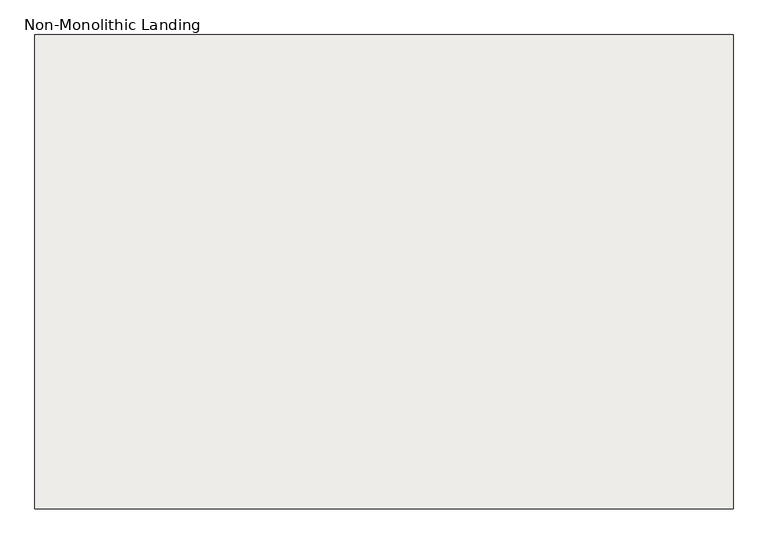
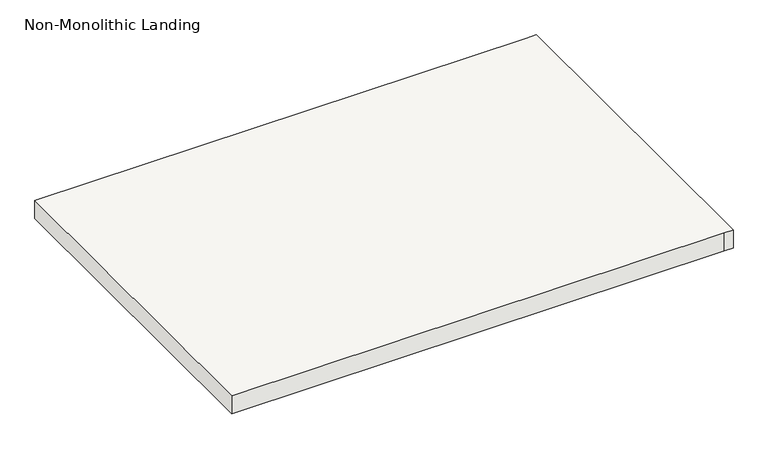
"""IFC4 building model written with IfcOpenShell, lengths in millimetres: slab geometry, Non-Monolithic Landing."""

from ifc_helpers import new_model, si_unit, frame, origin, place, context, project, spatial, polyline, outline, extrude, source, transform, mapped, element, save


def non_monolithic_landing_0ca8307c(model_context):
    return source(origin(), model_context, "Body", "SweptSolid", [
        extrude(outline(polyline([(-47125.9118252, 32584.0177722), (-45805.1118252, 32584.0177722), (-45779.7118252, 32584.0177722), (-45779.7118252, 31669.6177722), (-45805.1118252, 31669.6177722), (-47125.9118252, 31669.6177722), (-47125.9118252, 32584.0177722)])), frame((0.0, 0.0, 2126.3428571), z_axis=(0.0, 0.0, 1.0), x_axis=(1.0, 0.0, 0.0)), (0.0, 0.0, 1.0), 50.8),
    ])


if __name__ == "__main__":
    model = new_model("IFC4")
    model_context = context("Model", 3, world=origin())
    ifc_project = project(units=[si_unit("LENGTHUNIT", "METRE", prefix="MILLI")], contexts=[model_context])
    site = spatial("IfcSite", under=ifc_project)
    building = spatial("IfcBuilding", under=site)
    placement = place(None, origin())
    non_monolithic_landing_shape = non_monolithic_landing_0ca8307c(model_context)
    element("IfcSlab", 1, ObjectType="Non-Monolithic Landing", at=placement, inside=building, context=model_context, shape_type="MappedRepresentation", body=[
        mapped(non_monolithic_landing_shape, transform((0.0, 0.0, 0.0), x_axis=(1.0, 0.0, 0.0), y_axis=(0.0, 1.0, 0.0), z_axis=(0.0, 0.0, 1.0))),
    ])
    save(model, "model.ifc")
